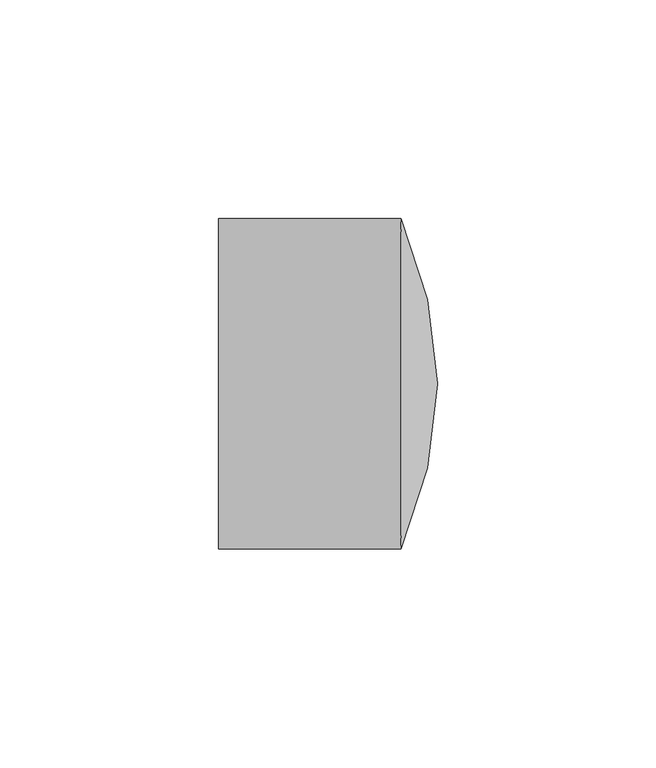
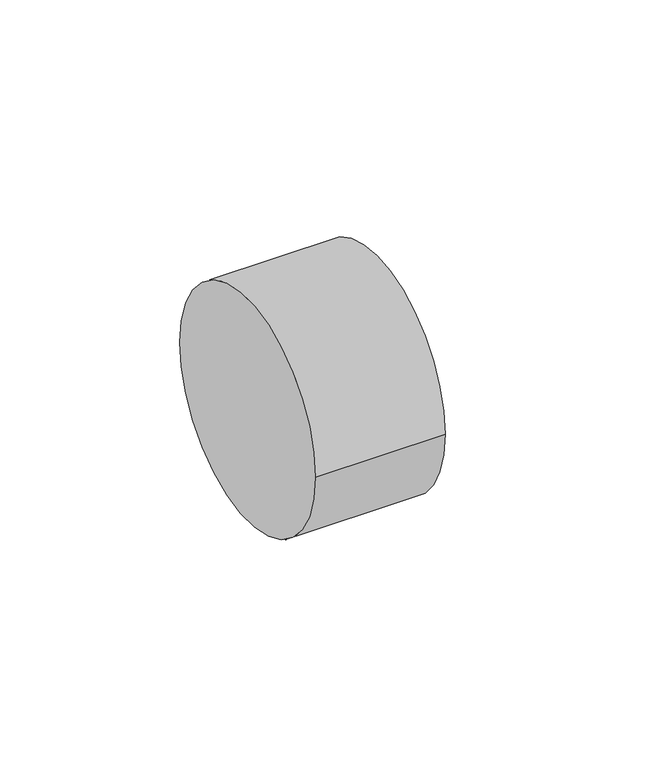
"""IFC4 building model written with IfcOpenShell, lengths in millimetres: pipe fitting geometry, 01051012 : Tapones H."""

from ifc_helpers import new_model, si_unit, point, frame, origin, place, context, project, spatial, circle_curve, ellipse_curve, trimmed, source, transform, mapped, element, save
from ifc_brep_helpers import plane_surface, cylinder_surface, revolved_surface, advanced_brep


def pipe_fitting_040606b9(model_context):
    return source(origin(), model_context, "Body", "AdvancedBrep", [
        advanced_brep(
        [(41.6666667, 37.75, 0.0), (50.0, 0.0, 0.0), (41.6666667, -37.75, 0.0), (0.0, -37.75, 0.0), (0.0, 37.75, 0.0)],
        [
            (0, 1, circle_curve(frame((-45.7552182, -1.3432233, 0.0), z_axis=(0.0, 0.0, -1.0), x_axis=(1.0, 0.0, 0.0)), 95.7646389)),
            (1, 2, circle_curve(frame((-45.7552182, 1.3432233, 0.0), z_axis=(0.0, 0.0, -1.0), x_axis=(1.0, 0.0, 0.0)), 95.7646389)),
            (2, 0, circle_curve(frame((41.6666667, 0.0, 0.0), z_axis=(1.0, 0.0, 0.0), x_axis=(0.0, 1.0, 0.0)), 37.75)),
            (0, 2, circle_curve(frame((41.6666667, 0.0, 0.0), z_axis=(1.0, 0.0, 0.0), x_axis=(0.0, 1.0, 0.0)), 37.75)),
            (3, 4, circle_curve(frame((0.0, 0.0, 0.0), z_axis=(-1.0, 0.0, 0.0), x_axis=(0.0, 1.0, 0.0)), 37.75)),
            (4, 3, circle_curve(frame((0.0, 0.0, 0.0), z_axis=(-1.0, 0.0, 0.0), x_axis=(0.0, 1.0, 0.0)), 37.75)),
            (3, 2),
            (0, 4),
        ],
        [
            revolved_surface(trimmed(ellipse_curve(frame((-45.7552182, -1.3432233, 0.0), z_axis=(0.0, 0.0, 1.0), x_axis=(1.0, 0.0, 0.0)), 95.7646389, 95.7646389), [point((50.0, 0.0, 0.0))], [point((41.6666667, 37.75, 0.0))], True, "CARTESIAN"), (41.6666667, 0.0, 0.0), (-1.0, 0.0, 0.0)),
            plane_surface(frame((0.0, 0.0, 0.0), z_axis=(-1.0, 0.0, 0.0), x_axis=(0.0, 0.0, 1.0))),
            cylinder_surface(frame((0.0, 0.0, 0.0), z_axis=(-1.0, 0.0, 0.0), x_axis=(0.0, 1.0, 0.0)), 37.75),
        ],
        [
            (0, [[1, 2, 3]]),
            (0, [[-1, 4, -2]]),
            (1, [[5, 6]]),
            (2, [[-5, 7, -4, 8]]),
            (2, [[-6, -8, -3, -7]]),
        ],
    ),
    ])


if __name__ == "__main__":
    model = new_model("IFC4")
    model_context = context("Model", 3, world=origin())
    ifc_project = project(units=[si_unit("LENGTHUNIT", "METRE", prefix="MILLI")], contexts=[model_context])
    site = spatial("IfcSite", under=ifc_project)
    building = spatial("IfcBuilding", under=site)
    placement = place(None, origin())
    pipe_fitting_shape = pipe_fitting_040606b9(model_context)
    element("IfcPipeFitting", 1, ObjectType="01051012 : Tapones H", at=placement, inside=building, context=model_context, shape_type="MappedRepresentation", body=[
        mapped(pipe_fitting_shape, transform((0.0, 0.0, 0.0), x_axis=(1.0, 0.0, 0.0), y_axis=(0.0, 1.0, 0.0), z_axis=(0.0, 0.0, 1.0))),
    ])
    save(model, "model.ifc")
